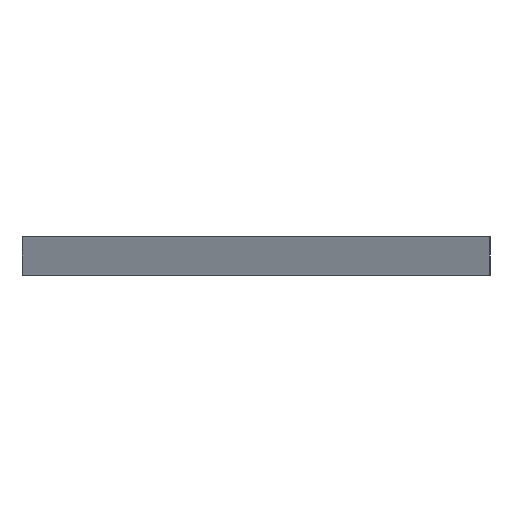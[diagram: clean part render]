
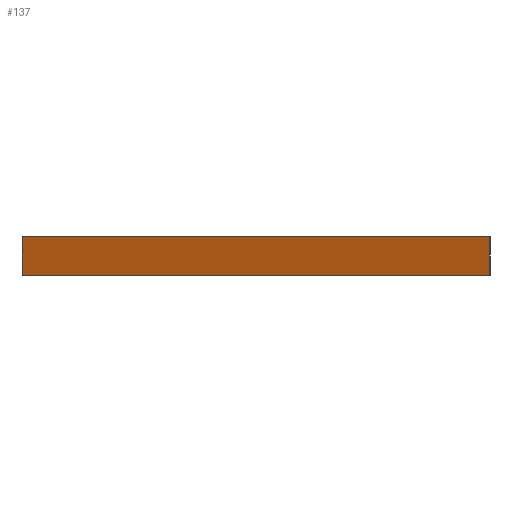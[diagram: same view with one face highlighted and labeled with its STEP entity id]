
A CAD part, left-side view. The second image highlights one B-rep face of the part: STEP entity #137.
In plain terms, the highlighted planar face has unit normal (-0.944, 0, -0.331).
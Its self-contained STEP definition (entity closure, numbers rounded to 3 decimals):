
#137=ADVANCED_FACE('',(#316),#317,.T.);
#316=FACE_OUTER_BOUND('',#509,.T.);
#317=PLANE('',#510);
#509=EDGE_LOOP('',(#1132,#1133,#1134,#1135));
#510=AXIS2_PLACEMENT_3D('',#1136,#1137,#1138);
#1132=ORIENTED_EDGE('',*,*,#1549,.T.);
#1133=ORIENTED_EDGE('',*,*,#1550,.F.);
#1134=ORIENTED_EDGE('',*,*,#1548,.T.);
#1135=ORIENTED_EDGE('',*,*,#1551,.T.);
#1136=CARTESIAN_POINT('',(-0.35,-60.0,0.));
#1137=DIRECTION('',(-0.944,0.,-0.331));
#1138=DIRECTION('',(0.,1.0,0.));
#1548=EDGE_CURVE('',#1951,#1955,#1957,.T.);
#1549=EDGE_CURVE('',#1958,#1959,#1960,.T.);
#1550=EDGE_CURVE('',#1951,#1959,#1961,.T.);
#1551=EDGE_CURVE('',#1955,#1958,#1962,.T.);
#1951=VERTEX_POINT('',#2571);
#1955=VERTEX_POINT('',#2577);
#1957=LINE('',#2580,#2581);
#1958=VERTEX_POINT('',#2582);
#1959=VERTEX_POINT('',#2583);
#1960=LINE('',#2584,#2585);
#1961=LINE('',#2586,#2587);
#1962=LINE('',#2588,#2589);
#2571=CARTESIAN_POINT('',(3.152,-60.0,-10.));
#2577=CARTESIAN_POINT('',(-0.35,-60.0,0.));
#2580=CARTESIAN_POINT('',(3.152,-60.0,-10.));
#2581=VECTOR('',#2908,1.0);
#2582=CARTESIAN_POINT('',(-0.35,60.0,0.));
#2583=CARTESIAN_POINT('',(3.152,60.0,-10.));
#2584=CARTESIAN_POINT('',(3.152,60.0,-10.));
#2585=VECTOR('',#2909,1.0);
#2586=CARTESIAN_POINT('',(3.152,-60.0,-10.));
#2587=VECTOR('',#2910,0.1);
#2588=CARTESIAN_POINT('',(-0.35,-60.0,0.));
#2589=VECTOR('',#2911,0.1);
#2908=DIRECTION('',(-0.331,0.,0.944));
#2909=DIRECTION('',(0.331,0.,-0.944));
#2910=DIRECTION('',(0.,1.0,0.));
#2911=DIRECTION('',(0.,1.0,0.));
